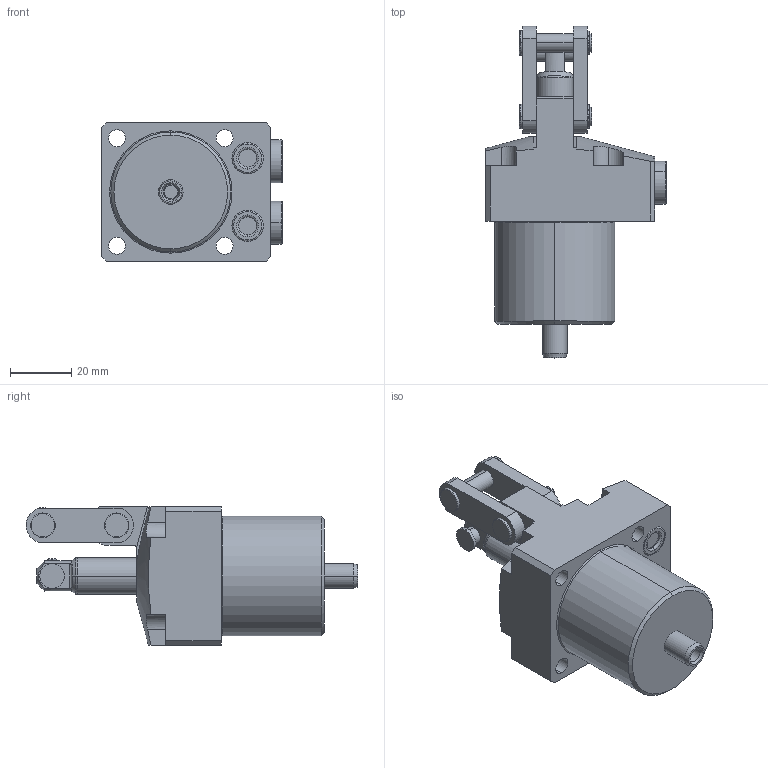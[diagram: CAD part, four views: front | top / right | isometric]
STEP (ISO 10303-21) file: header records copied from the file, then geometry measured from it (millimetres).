
FILE_DESCRIPTION(/* description */ (''),/* implementation_level */ '2;1');
FILE_NAME(/* name */ 'TPC02-LD.stp',/* time_stamp */ '2025-01-05T10:20:52+08:00',/* author */ (''),/* organization */ (''),/* preprocessor_version */ 'ST-DEVELOPER v16.7',/* originating_system */ 'SIEMENS PLM Software NX 12.0',/* authorisation */ '');
FILE_SCHEMA (('AUTOMOTIVE_DESIGN { 1 0 10303 214 3 1 1 1 }'));
Length unit declared in the file: millimetre
Products named in the file (5): TPC02-LD-04; TPC02-LD-03; TPC02-LD-02; TPC02-LD-01; TPC02-LD_stp
Assembly tree (5 placements, depth 2):
  TPC02-LD_stp
    TPC02-LD-01
    TPC02-LD-02
    TPC02-LD-03
    TPC02-LD-04  x2
Bounding box: 58.8 x 107.98 x 45 mm (x, y, z)
Volume: 105441.4 mm3; surface area: 26147.1 mm2
Topology: 5 solids, 7 shells, 307 faces, 727 edges, 460 vertices
Faces by surface type: cylinder 128, plane 120, torus 34, cone 23, extrusion 2
Entity records: 8630 total; most frequent: CARTESIAN_POINT 1647, DIRECTION 1539, ORIENTED_EDGE 1362, EDGE_CURVE 681, AXIS2_PLACEMENT_3D 613, VERTEX_POINT 432, EDGE_LOOP 331, CIRCLE 324
